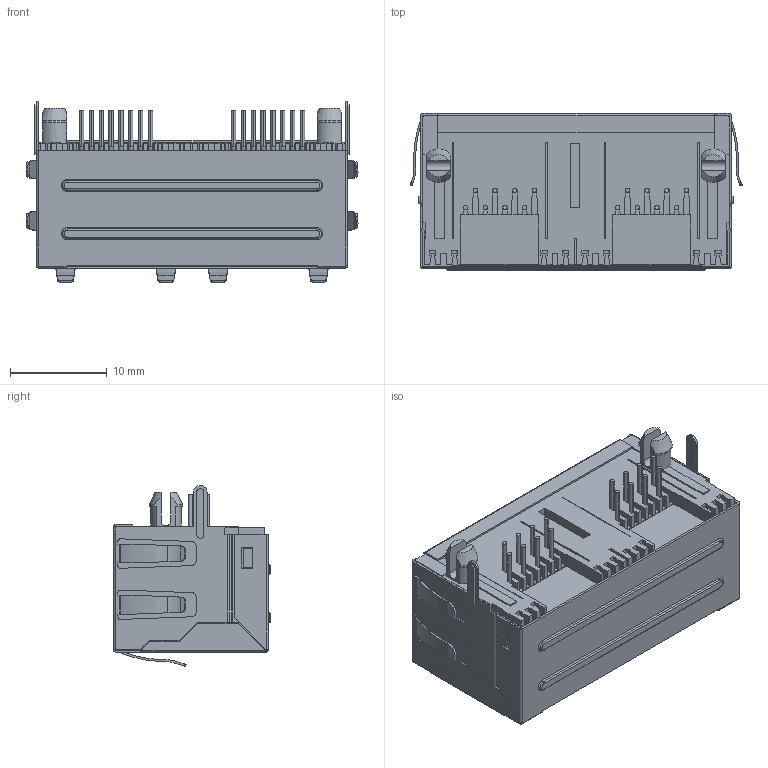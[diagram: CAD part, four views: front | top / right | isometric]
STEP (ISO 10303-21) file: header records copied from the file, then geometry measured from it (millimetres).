
FILE_DESCRIPTION((''),'2;1');
FILE_NAME('DGKYD561288HWA3DY10001_ASM','2022-08-09T11:19:20',('Administrator'),(''),'CREO PARAMETRIC BY PTC INC, 2018400','CREO PARAMETRIC BY PTC INC, 2018400','');
FILE_SCHEMA(('CONFIG_CONTROL_DESIGN'));
Length unit declared in the file: millimetre
Products named in the file (1): DGKYD561288HWA3DY10001_ASM
Bounding box: 34.38 x 16.25 x 18.75 mm (x, y, z)
Volume: 3406.9 mm3; surface area: 7749.6 mm2
Topology: 1 solids, 1 shells, 1615 faces, 4944 edges, 3206 vertices
Faces by surface type: plane 1099, cylinder 420, torus 64, bspline 26, cone 4, sphere 2
Entity records: 57847 total; most frequent: CARTESIAN_POINT 13714, ORIENTED_EDGE 9880, DIRECTION 8500, EDGE_CURVE 4940, VECTOR 3498, LINE 3498, VERTEX_POINT 3206, AXIS2_PLACEMENT_3D 2501
